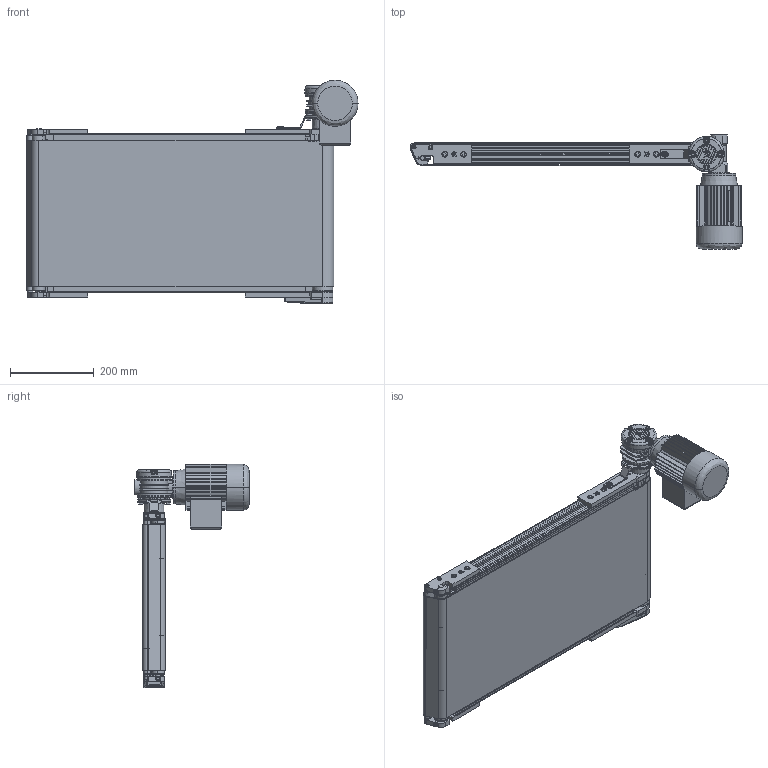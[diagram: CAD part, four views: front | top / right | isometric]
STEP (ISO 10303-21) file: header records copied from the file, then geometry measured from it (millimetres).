
FILE_DESCRIPTION (( 'STEP AP203' ), '1' );
FILE_NAME ('NASTRO_RETTILINEO_TAPPETO.step', '2026-04-21T12:00:49', ( 'Utente Windows' ), ( '' ), 'SwSTEP 2.0', 'SolidWorks 2024', '' );
FILE_SCHEMA (( 'CONFIG_CONTROL_DESIGN' ));
Length unit declared in the file: millimetre
Products named in the file (60): LAMIERA_1_PENNA; 084.810.001; PERNO_SUP_95_PENNA; 08UNI7435; VITI TSEI UNI 5933 INOX_0412UNI5933A2; PERNO_INF_50_PENNA; 14UNI7435; BLOCCO_PERNO_50_30; VITE_RONDELLA_M8X20; 084.807.016_084.807.002; VITI TSEI UNI 5933_M4x12 UNI 5933; 084.802.017_084.802.017; VITI TCEI UNI 5931_M4x25 UNI 5931; VITE_DADO_M5X12; P210RLM-0816-77; 084.302.016; BLOCCO_PERNO_50_RINVIO; RULLO_50_Default<A macchina>; 084.302.000 DADI ALUSIC 13x13-1_084.302.007; RONDELLE UNI 6592_5.3x10 UNI 6592; CHIAVETTE_A 5x5x40 UNI 6604-69; 084.802.071; RULLO_INF_50_PENNA; 084.802.062; BLOCCO_RINVIO_50_PENNA_SX; BLOCCO_BRACCIO_CH03P_VF30P; BLOCCO_RINVIO_50_PENNA_DX; 084.803.018; 084.807.002_084.807.002; VITI TCEI UNI 5931_M6x30 UNI 5931; VITI TSEI UNI 5933_M5x12 UNI 5933; BLOCCO_TRAINO_50_STANDARD_30_DX; 084.301.000 VITI ALUSIC_084.301.003; CHIAVETTE_A 5x5x20 UNI 6604-69; 084.808.012; CH03P_DX; 084.802.061; 084.809.007; 084.807.015_084.807.002; VITI TE UNI 5739_M6x16 UNI 5739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
Assembly tree (98 placements, depth 4):
  P210RLM-0816-77
  NASTRO_RETTILINEO_TAPPETO
    TAPPETO_STANDARD_1PENNA
    TELAIO_50_STANDARD_Default<A macchina>
    LAMIERA_1_PENNA
    RULLO_50_Default<A macchina>
    BLOCCO_PERNO_50_30
      084.810.001
      084.811.001
      RONDELLE FASCIA LARGA UNI 6593_5.4x20 UNI 6593
      084.301.000 VITI ALUSIC_084.301.009
      CHIAVETTE_A 5x5x40 UNI 6604-69
      CHIAVETTE_A 5x5x20 UNI 6604-69
      14UNI7435
    BLOCCO_TRAINO_50_STANDARD_30_DX
      084.807.003_084.807.003<A macchina>
      084.802.017_084.802.017
      084.301.000 VITI ALUSIC_084.301.003  x2
      084.302.000 DADI ALUSIC 13x13-1_084.302.004  x2
      BLOCCO_BRACCIO_CH03P_VF30P
        084.808.012
        084.802.062
        084.802.061
        VITI TE UNI 5739_M6x16 UNI 5739  x4
        084.803.018
        VITI TCEI UNI 5931_M6x12 UNI 5931  x4
      084.802.065_Default<A macchina>
      VITI TCEI UNI 5931_M4x25 UNI 5931  x2
    BLOCCO_PERNO_50_RINVIO
      084.811.004
      084.810.001
    BLOCCO_TRAINO_50_STANDARD
      084.807.002_084.807.002
      084.802.017_084.802.017
      084.301.000 VITI ALUSIC_084.301.003  x2
      084.302.000 DADI ALUSIC 13x13-1_084.302.004  x2
      VITI TSEI UNI 5933_M4x12 UNI 5933  x4
      084.802.071
      VITI TSEI UNI 5933 INOX_0412UNI5933A2  x2
    RULLO_SUP_50_PENNA
    BLOCCO_RINVIO_50_PENNA_SX
      084.807.016_084.807.002
      084.809.007
      084.802.036
      VITI TCEI UNI 5931_M6x30 UNI 5931
      RONDELLE UNI 6592_5.3x10 UNI 6592  x2
      VITI TCEI UNI 5931_M6x20 UNI 5931
      084.301.000 VITI ALUSIC_084.301.036
      084.302.016
      084.301.000 VITI ALUSIC_084.301.003  x2
      VITI TE UNI 5739 INOX_M5x12 UNI 5739 INOX  x2
      12UNI7435
      08UNI7435  x3
    BLOCCO_RINVIO_50_PENNA_DX
      084.802.036
      084.807.015_084.807.002
      VITI TCEI UNI 5931_M6x30 UNI 5931
      084.827.040
      VITI TCEI UNI 5931_M6x20 UNI 5931
      084.301.000 VITI ALUSIC_084.301.036
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Bounding box: 795 x 273 x 535 mm (x, y, z)
Volume: 5596263.9 mm3; surface area: 3527365 mm2
Topology: 106 solids, 112 shells, 4961 faces, 12764 edges, 8167 vertices
Faces by surface type: plane 2381, cylinder 1638, cone 377, bspline 288, torus 251, sphere 26
Entity records: 146516 total; most frequent: CARTESIAN_POINT 40782, ORIENTED_EDGE 21172, DIRECTION 19897, EDGE_CURVE 10586, AXIS2_PLACEMENT_3D 6992, VERTEX_POINT 6799, LINE 5913, VECTOR 5913
